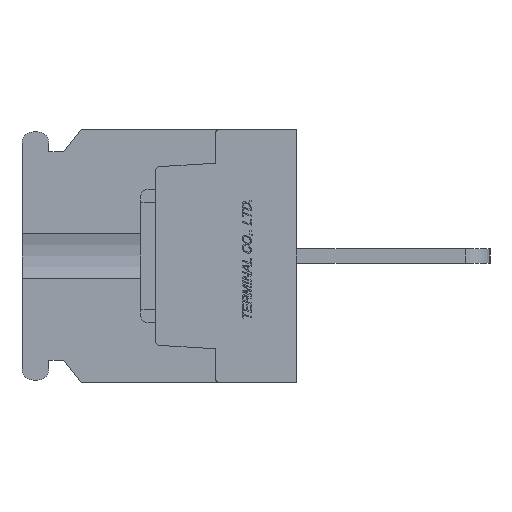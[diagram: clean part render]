
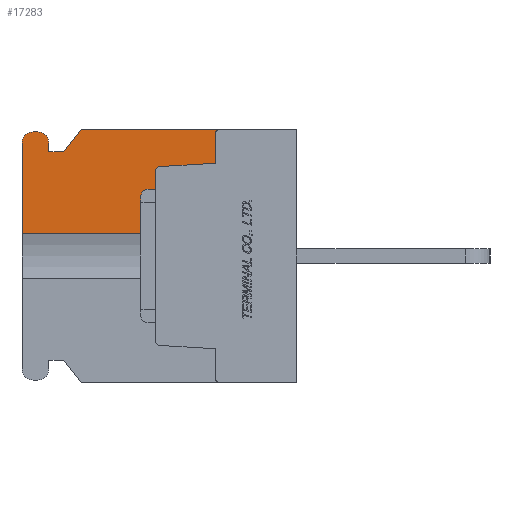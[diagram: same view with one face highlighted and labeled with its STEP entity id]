
A CAD part, left-side view. The second image highlights one B-rep face of the part: STEP entity #17283.
In plain terms, the highlighted planar face has unit normal (-1, 0, 0).
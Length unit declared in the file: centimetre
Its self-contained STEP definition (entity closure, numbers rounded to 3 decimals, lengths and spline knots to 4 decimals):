
#1509=VECTOR('',#19902,1.);
#1511=VECTOR('',#19905,1.);
#1513=VECTOR('',#19912,1.);
#1514=VECTOR('',#19913,1.);
#1515=VECTOR('',#19914,1.);
#1516=VECTOR('',#19915,1.);
#1517=VECTOR('',#19916,1.);
#1518=VECTOR('',#19919,1.);
#1519=VECTOR('',#19922,1.);
#1520=VECTOR('',#19923,1.);
#3391=LINE('',#25827,#1509);
#3393=LINE('',#25831,#1511);
#3395=LINE('',#25837,#1513);
#3396=LINE('',#25839,#1514);
#3397=LINE('',#25841,#1515);
#3398=LINE('',#25843,#1516);
#3399=LINE('',#25845,#1517);
#3400=LINE('',#25849,#1518);
#3401=LINE('',#25853,#1519);
#3402=LINE('',#25855,#1520);
#5304=VERTEX_POINT('',#25820);
#5305=VERTEX_POINT('',#25822);
#5306=VERTEX_POINT('',#25826);
#5307=VERTEX_POINT('',#25830);
#5308=VERTEX_POINT('',#25834);
#5309=VERTEX_POINT('',#25838);
#5310=VERTEX_POINT('',#25840);
#5311=VERTEX_POINT('',#25842);
#5312=VERTEX_POINT('',#25844);
#5313=VERTEX_POINT('',#25846);
#5314=VERTEX_POINT('',#25848);
#5315=VERTEX_POINT('',#25850);
#5316=VERTEX_POINT('',#25852);
#5317=VERTEX_POINT('',#25854);
#6315=CIRCLE('',#29314,0.03);
#6316=CIRCLE('',#29318,0.03);
#6317=CIRCLE('',#29320,0.075);
#6318=CIRCLE('',#29321,0.075);
#7885=EDGE_CURVE('',#5305,#5304,#6315,.T.);
#7888=EDGE_CURVE('',#5304,#5306,#3391,.T.);
#7890=EDGE_CURVE('',#5306,#5307,#3393,.T.);
#7892=EDGE_CURVE('',#5307,#5308,#6316,.T.);
#7893=EDGE_CURVE('',#5309,#5305,#3395,.T.);
#7894=EDGE_CURVE('',#5310,#5308,#3396,.T.);
#7895=EDGE_CURVE('',#5311,#5310,#3397,.T.);
#7896=EDGE_CURVE('',#5312,#5311,#3398,.T.);
#7897=EDGE_CURVE('',#5313,#5312,#3399,.T.);
#7898=EDGE_CURVE('',#5314,#5313,#6317,.T.);
#7899=EDGE_CURVE('',#5315,#5314,#3400,.T.);
#7900=EDGE_CURVE('',#5316,#5315,#6318,.T.);
#7901=EDGE_CURVE('',#5317,#5316,#3401,.T.);
#7902=EDGE_CURVE('',#5317,#5309,#3402,.T.);
#11680=ORIENTED_EDGE('',*,*,#7893,.T.);
#11681=ORIENTED_EDGE('',*,*,#7885,.T.);
#11682=ORIENTED_EDGE('',*,*,#7888,.T.);
#11683=ORIENTED_EDGE('',*,*,#7890,.T.);
#11684=ORIENTED_EDGE('',*,*,#7892,.T.);
#11685=ORIENTED_EDGE('',*,*,#7894,.F.);
#11686=ORIENTED_EDGE('',*,*,#7895,.F.);
#11687=ORIENTED_EDGE('',*,*,#7896,.F.);
#11688=ORIENTED_EDGE('',*,*,#7897,.F.);
#11689=ORIENTED_EDGE('',*,*,#7898,.F.);
#11690=ORIENTED_EDGE('',*,*,#7899,.F.);
#11691=ORIENTED_EDGE('',*,*,#7900,.F.);
#11692=ORIENTED_EDGE('',*,*,#7901,.F.);
#11693=ORIENTED_EDGE('',*,*,#7902,.T.);
#15113=EDGE_LOOP('',(#11680,#11681,#11682,#11683,#11684,#11685,#11686,#11687,
#11688,#11689,#11690,#11691,#11692,#11693));
#16225=FACE_BOUND('',#15113,.T.);
#17283=ADVANCED_FACE('',(#16225),#18122,.F.);
#18122=PLANE('',#29319);
#19897=DIRECTION('',(1.,0.,0.));
#19898=DIRECTION('',(0.,0.,0.03));
#19902=DIRECTION('',(0.,-0.998,0.061));
#19905=DIRECTION('',(0.,0.,1.));
#19909=DIRECTION('',(1.,0.,0.));
#19910=DIRECTION('',(0.,0.,0.03));
#19911=DIRECTION('',(1.,0.,0.));
#19912=DIRECTION('',(0.,0.,1.));
#19913=DIRECTION('',(0.,-1.,0.));
#19914=DIRECTION('',(0.,-0.625,0.781));
#19915=DIRECTION('',(0.,-1.,0.));
#19916=DIRECTION('',(0.,0.,-1.));
#19917=DIRECTION('',(1.,0.,0.));
#19918=DIRECTION('',(0.,0.,-0.075));
#19919=DIRECTION('',(0.,-1.,0.));
#19920=DIRECTION('',(1.,0.,0.));
#19921=DIRECTION('',(0.,0.,-0.075));
#19922=DIRECTION('',(0.,0.,1.));
#19923=DIRECTION('',(0.,-1.,0.));
#25820=CARTESIAN_POINT('',(-1.1,0.9218,0.6017));
#25821=CARTESIAN_POINT('',(-1.1,0.92,0.5718));
#25822=CARTESIAN_POINT('',(-1.1,0.95,0.5718));
#25826=CARTESIAN_POINT('',(-1.1,0.55,0.6245));
#25827=CARTESIAN_POINT('',(-1.1,0.859,0.6056));
#25830=CARTESIAN_POINT('',(-1.1,0.55,0.82));
#25831=CARTESIAN_POINT('',(-1.1,0.55,0.3611));
#25834=CARTESIAN_POINT('',(-1.1,0.52,0.85));
#25835=CARTESIAN_POINT('',(-1.1,0.52,0.82));
#25836=CARTESIAN_POINT('',(-1.1,0.9454,0.));
#25837=CARTESIAN_POINT('',(-1.1,0.95,0.));
#25838=CARTESIAN_POINT('',(-1.1,0.95,0.1521));
#25839=CARTESIAN_POINT('',(-1.1,1.45,0.85));
#25840=CARTESIAN_POINT('',(-1.1,1.45,0.85));
#25841=CARTESIAN_POINT('',(-1.1,1.57,0.7));
#25842=CARTESIAN_POINT('',(-1.1,1.57,0.7));
#25843=CARTESIAN_POINT('',(-1.1,1.67,0.7));
#25844=CARTESIAN_POINT('',(-1.1,1.67,0.7));
#25845=CARTESIAN_POINT('',(-1.1,1.67,0.76));
#25846=CARTESIAN_POINT('',(-1.1,1.67,0.76));
#25847=CARTESIAN_POINT('',(-1.1,1.745,0.76));
#25848=CARTESIAN_POINT('',(-1.1,1.745,0.835));
#25849=CARTESIAN_POINT('',(-1.1,1.775,0.835));
#25850=CARTESIAN_POINT('',(-1.1,1.775,0.835));
#25851=CARTESIAN_POINT('',(-1.1,1.775,0.76));
#25852=CARTESIAN_POINT('',(-1.1,1.85,0.76));
#25853=CARTESIAN_POINT('',(-1.1,1.85,-0.76));
#25854=CARTESIAN_POINT('',(-1.1,1.85,0.1521));
#25855=CARTESIAN_POINT('',(-1.1,1.4,0.1521));
#29314=AXIS2_PLACEMENT_3D('',#25821,#19897,#19898);
#29318=AXIS2_PLACEMENT_3D('',#25835,#19909,#19910);
#29319=AXIS2_PLACEMENT_3D('',#25836,#19911,$);
#29320=AXIS2_PLACEMENT_3D('',#25847,#19917,#19918);
#29321=AXIS2_PLACEMENT_3D('',#25851,#19920,#19921);
